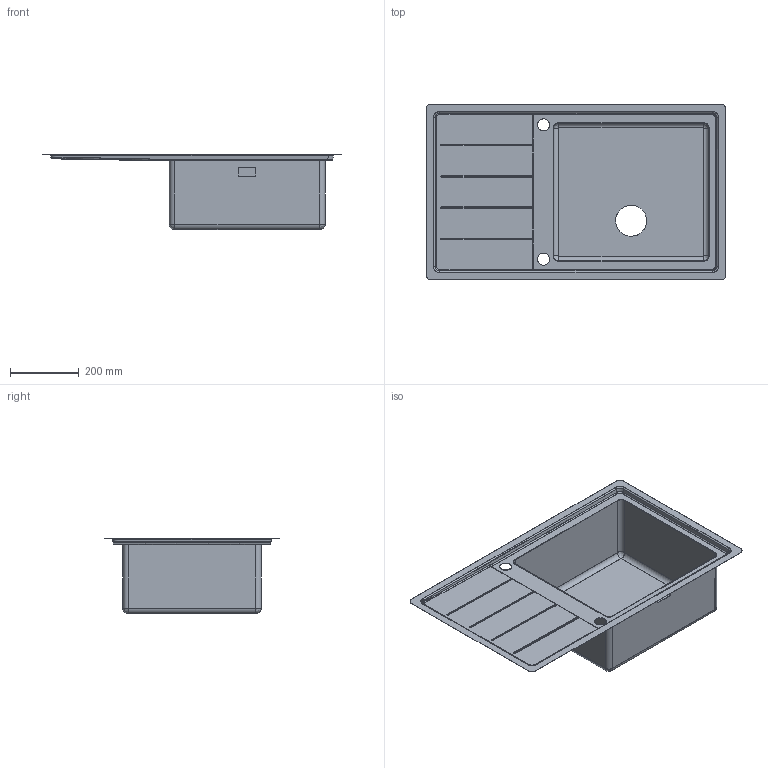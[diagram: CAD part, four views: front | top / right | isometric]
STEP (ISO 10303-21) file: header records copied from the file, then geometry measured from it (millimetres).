
FILE_DESCRIPTION(('CATIA V5 STEP Exchange'),'2;1');
FILE_NAME('C:\Users\linop\Desktop\LFTG861D.stp','2019-03-13T07:32:36+00:00',('none'),('none'),'CATIA Version 5-6 Release 2014','CATIA V5 STEP AP203','none');
FILE_SCHEMA(('CONFIG_CONTROL_DESIGN'));
Length unit declared in the file: millimetre
Products named in the file (1): Assieme
Bounding box: 870 x 510 x 217.8 mm (x, y, z)
Volume: 729299.9 mm3; surface area: 1580496.2 mm2
Topology: 2 solids, 2 shells, 247 faces, 604 edges, 344 vertices
Faces by surface type: cylinder 102, bspline 76, plane 37, sphere 16, torus 8, revolution 8
Entity records: 12787 total; most frequent: CARTESIAN_POINT 7870, ORIENTED_EDGE 1168, DIRECTION 664, EDGE_CURVE 584, VERTEX_POINT 344, AXIS2_PLACEMENT_3D 310, EDGE_LOOP 260, ADVANCED_FACE 247
